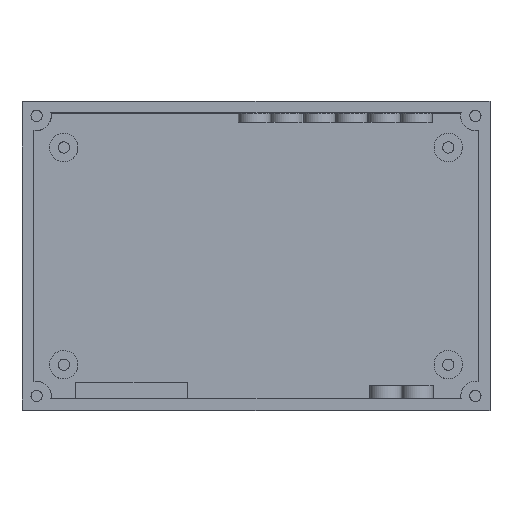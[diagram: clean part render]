
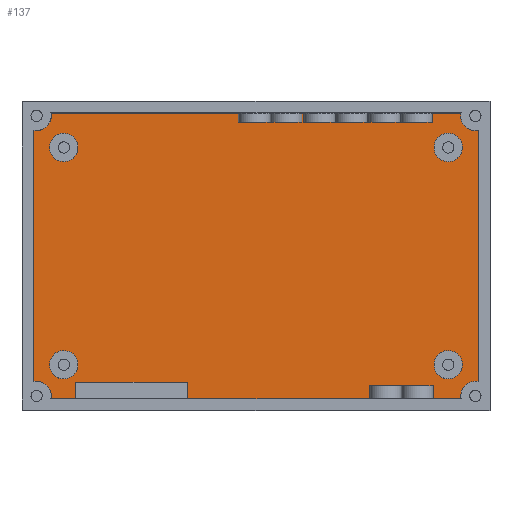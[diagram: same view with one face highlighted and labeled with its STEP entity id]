
A CAD part, top view. The second image highlights one B-rep face of the part: STEP entity #137.
In plain terms, the highlighted free-form (B-spline) face has degree [1, 1] with [2, 2] control points.
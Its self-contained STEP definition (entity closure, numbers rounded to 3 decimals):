
#21 = EDGE_CURVE('',#22,#24,#26,.T.);
#22 = VERTEX_POINT('',#23);
#23 = CARTESIAN_POINT('',(74.929,-86.8,2.8));
#24 = VERTEX_POINT('',#25);
#25 = CARTESIAN_POINT('',(173.071,-86.8,2.8));
#26 = B_SPLINE_CURVE_WITH_KNOTS('',1,(#27,#28),.UNSPECIFIED.,.F.,.F.,(2,
    2),(6.929,105.071),.PIECEWISE_BEZIER_KNOTS.);
#27 = CARTESIAN_POINT('',(74.929,-86.8,2.8));
#28 = CARTESIAN_POINT('',(173.071,-86.8,2.8));
#137 = ADVANCED_FACE('',(#138,#208,#222,#236,#250),#264,.T.);
#138 = FACE_BOUND('',#139,.T.);
#139 = EDGE_LOOP('',(#140,#141,#149,#157,#164,#172,#180,#187,#195,#202)
  );
#140 = ORIENTED_EDGE('',*,*,#21,.F.);
#141 = ORIENTED_EDGE('',*,*,#142,.T.);
#142 = EDGE_CURVE('',#22,#143,#145,.T.);
#143 = VERTEX_POINT('',#144);
#144 = CARTESIAN_POINT('',(75.,-87.5,2.8));
#145 = ( BOUNDED_CURVE() B_SPLINE_CURVE(2,(#146,#147,#148),
.UNSPECIFIED.,.F.,.F.) B_SPLINE_CURVE_WITH_KNOTS((3,3),(6.082,
6.283),.PIECEWISE_BEZIER_KNOTS.) CURVE() 
GEOMETRIC_REPRESENTATION_ITEM() RATIONAL_B_SPLINE_CURVE((1.,
0.995,1.)) REPRESENTATION_ITEM('') );
#146 = CARTESIAN_POINT('',(74.929,-86.8,2.8));
#147 = CARTESIAN_POINT('',(75.,-87.146,2.8));
#148 = CARTESIAN_POINT('',(75.,-87.5,2.8));
#149 = ORIENTED_EDGE('',*,*,#150,.T.);
#150 = EDGE_CURVE('',#143,#151,#153,.T.);
#151 = VERTEX_POINT('',#152);
#152 = CARTESIAN_POINT('',(70.8,-90.929,2.8));
#153 = ( BOUNDED_CURVE() B_SPLINE_CURVE(2,(#154,#155,#156),
.UNSPECIFIED.,.F.,.F.) B_SPLINE_CURVE_WITH_KNOTS((3,3),(0.,
1.772),.PIECEWISE_BEZIER_KNOTS.) CURVE() 
GEOMETRIC_REPRESENTATION_ITEM() RATIONAL_B_SPLINE_CURVE((1.,
0.632,1.)) REPRESENTATION_ITEM('') );
#154 = CARTESIAN_POINT('',(75.,-87.5,2.8));
#155 = CARTESIAN_POINT('',(75.,-91.787,2.8));
#156 = CARTESIAN_POINT('',(70.8,-90.929,2.8));
#157 = ORIENTED_EDGE('',*,*,#158,.F.);
#158 = EDGE_CURVE('',#159,#151,#161,.T.);
#159 = VERTEX_POINT('',#160);
#160 = CARTESIAN_POINT('',(70.8,-151.071,2.8));
#161 = B_SPLINE_CURVE_WITH_KNOTS('',1,(#162,#163),.UNSPECIFIED.,.F.,.F.,
  (2,2),(6.929,67.071),.PIECEWISE_BEZIER_KNOTS.);
#162 = CARTESIAN_POINT('',(70.8,-151.071,2.8));
#163 = CARTESIAN_POINT('',(70.8,-90.929,2.8));
#164 = ORIENTED_EDGE('',*,*,#165,.T.);
#165 = EDGE_CURVE('',#159,#166,#168,.T.);
#166 = VERTEX_POINT('',#167);
#167 = CARTESIAN_POINT('',(75.,-154.5,2.8));
#168 = ( BOUNDED_CURVE() B_SPLINE_CURVE(2,(#169,#170,#171),
.UNSPECIFIED.,.F.,.F.) B_SPLINE_CURVE_WITH_KNOTS((3,3),(4.511,
6.283),.PIECEWISE_BEZIER_KNOTS.) CURVE() 
GEOMETRIC_REPRESENTATION_ITEM() RATIONAL_B_SPLINE_CURVE((1.,
0.632,1.)) REPRESENTATION_ITEM('') );
#169 = CARTESIAN_POINT('',(70.8,-151.071,2.8));
#170 = CARTESIAN_POINT('',(75.,-150.213,2.8));
#171 = CARTESIAN_POINT('',(75.,-154.5,2.8));
#172 = ORIENTED_EDGE('',*,*,#173,.T.);
#173 = EDGE_CURVE('',#166,#174,#176,.T.);
#174 = VERTEX_POINT('',#175);
#175 = CARTESIAN_POINT('',(74.929,-155.2,2.8));
#176 = ( BOUNDED_CURVE() B_SPLINE_CURVE(2,(#177,#178,#179),
.UNSPECIFIED.,.F.,.F.) B_SPLINE_CURVE_WITH_KNOTS((3,3),(0.,0.201
),.PIECEWISE_BEZIER_KNOTS.) CURVE() GEOMETRIC_REPRESENTATION_ITEM() 
RATIONAL_B_SPLINE_CURVE((1.,0.995,1.)) REPRESENTATION_ITEM('') 
  );
#177 = CARTESIAN_POINT('',(75.,-154.5,2.8));
#178 = CARTESIAN_POINT('',(75.,-154.854,2.8));
#179 = CARTESIAN_POINT('',(74.929,-155.2,2.8));
#180 = ORIENTED_EDGE('',*,*,#181,.F.);
#181 = EDGE_CURVE('',#182,#174,#184,.T.);
#182 = VERTEX_POINT('',#183);
#183 = CARTESIAN_POINT('',(173.071,-155.2,2.8));
#184 = B_SPLINE_CURVE_WITH_KNOTS('',1,(#185,#186),.UNSPECIFIED.,.F.,.F.,
  (2,2),(6.929,105.071),.PIECEWISE_BEZIER_KNOTS.);
#185 = CARTESIAN_POINT('',(173.071,-155.2,2.8));
#186 = CARTESIAN_POINT('',(74.929,-155.2,2.8));
#187 = ORIENTED_EDGE('',*,*,#188,.T.);
#188 = EDGE_CURVE('',#182,#189,#191,.T.);
#189 = VERTEX_POINT('',#190);
#190 = CARTESIAN_POINT('',(177.2,-151.071,2.8));
#191 = ( BOUNDED_CURVE() B_SPLINE_CURVE(2,(#192,#193,#194),
.UNSPECIFIED.,.F.,.F.) B_SPLINE_CURVE_WITH_KNOTS((3,3),(2.94,
4.914),.PIECEWISE_BEZIER_KNOTS.) CURVE() 
GEOMETRIC_REPRESENTATION_ITEM() RATIONAL_B_SPLINE_CURVE((1.,
0.551,1.)) REPRESENTATION_ITEM('') );
#192 = CARTESIAN_POINT('',(173.071,-155.2,2.8));
#193 = CARTESIAN_POINT('',(172.012,-150.012,2.8));
#194 = CARTESIAN_POINT('',(177.2,-151.071,2.8));
#195 = ORIENTED_EDGE('',*,*,#196,.F.);
#196 = EDGE_CURVE('',#197,#189,#199,.T.);
#197 = VERTEX_POINT('',#198);
#198 = CARTESIAN_POINT('',(177.2,-90.929,2.8));
#199 = B_SPLINE_CURVE_WITH_KNOTS('',1,(#200,#201),.UNSPECIFIED.,.F.,.F.,
  (2,2),(6.929,67.071),.PIECEWISE_BEZIER_KNOTS.);
#200 = CARTESIAN_POINT('',(177.2,-90.929,2.8));
#201 = CARTESIAN_POINT('',(177.2,-151.071,2.8));
#202 = ORIENTED_EDGE('',*,*,#203,.T.);
#203 = EDGE_CURVE('',#197,#24,#204,.T.);
#204 = ( BOUNDED_CURVE() B_SPLINE_CURVE(2,(#205,#206,#207),
.UNSPECIFIED.,.F.,.F.) B_SPLINE_CURVE_WITH_KNOTS((3,3),(1.369,
3.343),.PIECEWISE_BEZIER_KNOTS.) CURVE() 
GEOMETRIC_REPRESENTATION_ITEM() RATIONAL_B_SPLINE_CURVE((1.,
0.551,1.)) REPRESENTATION_ITEM('') );
#205 = CARTESIAN_POINT('',(177.2,-90.929,2.8));
#206 = CARTESIAN_POINT('',(172.012,-91.988,2.8));
#207 = CARTESIAN_POINT('',(173.071,-86.8,2.8));
#208 = FACE_BOUND('',#209,.T.);
#209 = EDGE_LOOP('',(#210));
#210 = ORIENTED_EDGE('',*,*,#211,.T.);
#211 = EDGE_CURVE('',#212,#212,#214,.T.);
#212 = VERTEX_POINT('',#213);
#213 = CARTESIAN_POINT('',(173.4,-95.,2.8));
#214 = ( BOUNDED_CURVE() B_SPLINE_CURVE(2,(#215,#216,#217,#218,#219,#220
,#221),.UNSPECIFIED.,.T.,.F.) B_SPLINE_CURVE_WITH_KNOTS((1,2,2,2,2,1),(
    -2.094,0.,2.094,4.189,6.283,
8.378),.UNSPECIFIED.) CURVE() GEOMETRIC_REPRESENTATION_ITEM() 
RATIONAL_B_SPLINE_CURVE((1.,0.5,1.,0.5,1.,0.5,1.)) REPRESENTATION_ITEM(
  '') );
#215 = CARTESIAN_POINT('',(173.4,-95.,2.8));
#216 = CARTESIAN_POINT('',(173.4,-100.889,2.8));
#217 = CARTESIAN_POINT('',(168.3,-97.944,2.8));
#218 = CARTESIAN_POINT('',(163.2,-95.,2.8));
#219 = CARTESIAN_POINT('',(168.3,-92.056,2.8));
#220 = CARTESIAN_POINT('',(173.4,-89.111,2.8));
#221 = CARTESIAN_POINT('',(173.4,-95.,2.8));
#222 = FACE_BOUND('',#223,.T.);
#223 = EDGE_LOOP('',(#224));
#224 = ORIENTED_EDGE('',*,*,#225,.T.);
#225 = EDGE_CURVE('',#226,#226,#228,.T.);
#226 = VERTEX_POINT('',#227);
#227 = CARTESIAN_POINT('',(81.4,-95.,2.8));
#228 = ( BOUNDED_CURVE() B_SPLINE_CURVE(2,(#229,#230,#231,#232,#233,#234
,#235),.UNSPECIFIED.,.T.,.F.) B_SPLINE_CURVE_WITH_KNOTS((1,2,2,2,2,1),(
    -2.094,0.,2.094,4.189,6.283,
8.378),.UNSPECIFIED.) CURVE() GEOMETRIC_REPRESENTATION_ITEM() 
RATIONAL_B_SPLINE_CURVE((1.,0.5,1.,0.5,1.,0.5,1.)) REPRESENTATION_ITEM(
  '') );
#229 = CARTESIAN_POINT('',(81.4,-95.,2.8));
#230 = CARTESIAN_POINT('',(81.4,-100.889,2.8));
#231 = CARTESIAN_POINT('',(76.3,-97.944,2.8));
#232 = CARTESIAN_POINT('',(71.2,-95.,2.8));
#233 = CARTESIAN_POINT('',(76.3,-92.056,2.8));
#234 = CARTESIAN_POINT('',(81.4,-89.111,2.8));
#235 = CARTESIAN_POINT('',(81.4,-95.,2.8));
#236 = FACE_BOUND('',#237,.T.);
#237 = EDGE_LOOP('',(#238));
#238 = ORIENTED_EDGE('',*,*,#239,.T.);
#239 = EDGE_CURVE('',#240,#240,#242,.T.);
#240 = VERTEX_POINT('',#241);
#241 = CARTESIAN_POINT('',(173.4,-147.,2.8));
#242 = ( BOUNDED_CURVE() B_SPLINE_CURVE(2,(#243,#244,#245,#246,#247,#248
,#249),.UNSPECIFIED.,.T.,.F.) B_SPLINE_CURVE_WITH_KNOTS((1,2,2,2,2,1),(
    -2.094,0.,2.094,4.189,6.283,
8.378),.UNSPECIFIED.) CURVE() GEOMETRIC_REPRESENTATION_ITEM() 
RATIONAL_B_SPLINE_CURVE((1.,0.5,1.,0.5,1.,0.5,1.)) REPRESENTATION_ITEM(
  '') );
#243 = CARTESIAN_POINT('',(173.4,-147.,2.8));
#244 = CARTESIAN_POINT('',(173.4,-152.889,2.8));
#245 = CARTESIAN_POINT('',(168.3,-149.944,2.8));
#246 = CARTESIAN_POINT('',(163.2,-147.,2.8));
#247 = CARTESIAN_POINT('',(168.3,-144.056,2.8));
#248 = CARTESIAN_POINT('',(173.4,-141.111,2.8));
#249 = CARTESIAN_POINT('',(173.4,-147.,2.8));
#250 = FACE_BOUND('',#251,.T.);
#251 = EDGE_LOOP('',(#252));
#252 = ORIENTED_EDGE('',*,*,#253,.T.);
#253 = EDGE_CURVE('',#254,#254,#256,.T.);
#254 = VERTEX_POINT('',#255);
#255 = CARTESIAN_POINT('',(81.4,-147.,2.8));
#256 = ( BOUNDED_CURVE() B_SPLINE_CURVE(2,(#257,#258,#259,#260,#261,#262
,#263),.UNSPECIFIED.,.T.,.F.) B_SPLINE_CURVE_WITH_KNOTS((1,2,2,2,2,1),(
    -2.094,0.,2.094,4.189,6.283,
8.378),.UNSPECIFIED.) CURVE() GEOMETRIC_REPRESENTATION_ITEM() 
RATIONAL_B_SPLINE_CURVE((1.,0.5,1.,0.5,1.,0.5,1.)) REPRESENTATION_ITEM(
  '') );
#257 = CARTESIAN_POINT('',(81.4,-147.,2.8));
#258 = CARTESIAN_POINT('',(81.4,-152.889,2.8));
#259 = CARTESIAN_POINT('',(76.3,-149.944,2.8));
#260 = CARTESIAN_POINT('',(71.2,-147.,2.8));
#261 = CARTESIAN_POINT('',(76.3,-144.056,2.8));
#262 = CARTESIAN_POINT('',(81.4,-141.111,2.8));
#263 = CARTESIAN_POINT('',(81.4,-147.,2.8));
#264 = B_SPLINE_SURFACE_WITH_KNOTS('',1,1,(
    (#265,#266)
    ,(#267,#268
    )),.UNSPECIFIED.,.F.,.F.,.F.,(2,2),(2,2),(-53.2,53.2),(-34.2,34.2),
  .PIECEWISE_BEZIER_KNOTS.);
#265 = CARTESIAN_POINT('',(177.2,-86.8,2.8));
#266 = CARTESIAN_POINT('',(177.2,-155.2,2.8));
#267 = CARTESIAN_POINT('',(70.8,-86.8,2.8));
#268 = CARTESIAN_POINT('',(70.8,-155.2,2.8));
